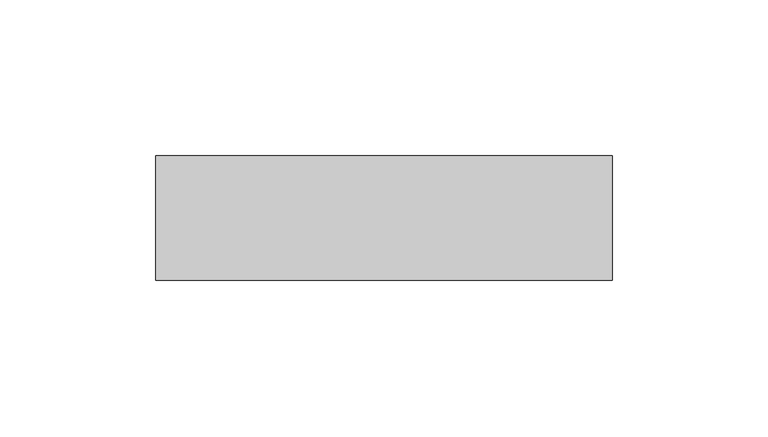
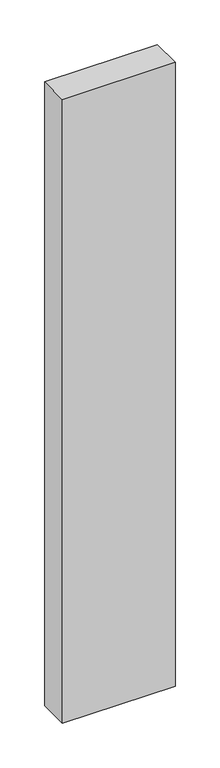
"""IFC4 building model written with IfcOpenShell, lengths in millimetres: plate geometry, Panneau système : Vitre 4cm."""

from ifc_helpers import new_model, si_unit, origin, origin_with_axes, place, context, project, spatial, polyline, outline, extrude, source, transform, mapped, element, save


def plate_a3b39911(model_context):
    return source(origin(), model_context, "Body", "SweptSolid", [
        extrude(outline(polyline([(73.2105561, -20.0), (-73.2105561, -20.0), (-73.2105561, 20.0), (73.2105561, 20.0), (73.2105561, -20.0)])), origin_with_axes(), (0.0, 0.0, 1.0), 855.0),
    ])


if __name__ == "__main__":
    model = new_model("IFC4")
    model_context = context("Model", 3, world=origin())
    ifc_project = project(units=[si_unit("LENGTHUNIT", "METRE", prefix="MILLI")], contexts=[model_context])
    site = spatial("IfcSite", under=ifc_project)
    building = spatial("IfcBuilding", under=site)
    placement = place(None, origin())
    plate_shape = plate_a3b39911(model_context)
    element("IfcPlate", 1, ObjectType="Panneau système : Vitre 4cm", at=placement, inside=building, context=model_context, shape_type="MappedRepresentation", body=[
        mapped(plate_shape, transform((0.0, 0.0, 0.0), x_axis=(1.0, 0.0, 0.0), y_axis=(0.0, 1.0, 0.0), z_axis=(0.0, 0.0, 1.0))),
    ])
    save(model, "model.ifc")
